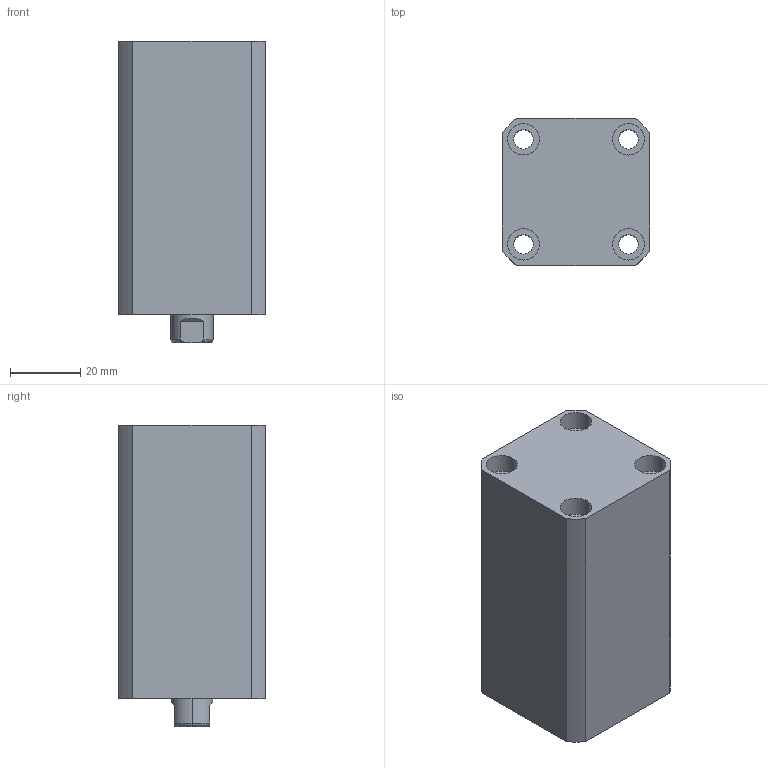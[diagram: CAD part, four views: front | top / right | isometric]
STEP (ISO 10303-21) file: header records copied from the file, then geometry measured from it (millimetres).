
FILE_DESCRIPTION (( 'STEP AP214' ), '1' );
FILE_NAME ('chtb-sd20x35n_asm.STEP', '2018-04-26T11:55:36', ( 'Windows' ), ( 'Microsoft' ), 'SwSTEP 2.0', 'SolidWorks 2015', '' );
FILE_SCHEMA (( 'AUTOMOTIVE_DESIGN' ));
Length unit declared in the file: millimetre
Products named in the file (4): QG; CHTB-SD20X35NHSG; CHTB-SD20X35NBT; chtb-sd20x35n_asm
Assembly tree (3 placements, depth 2):
  chtb-sd20x35n_asm
    CHTB-SD20X35NBT
    CHTB-SD20X35NHSG
    QG
Bounding box: 42 x 42 x 86 mm (x, y, z)
Volume: 116080.5 mm3; surface area: 36192.4 mm2
Topology: 3 solids, 3 shells, 192 faces, 499 edges, 330 vertices
Faces by surface type: cylinder 102, plane 36, torus 25, bspline 19, cone 10
Entity records: 10524 total; most frequent: CARTESIAN_POINT 5851, ORIENTED_EDGE 986, DIRECTION 903, EDGE_CURVE 493, AXIS2_PLACEMENT_3D 385, VERTEX_POINT 330, EDGE_LOOP 229, CIRCLE 206
